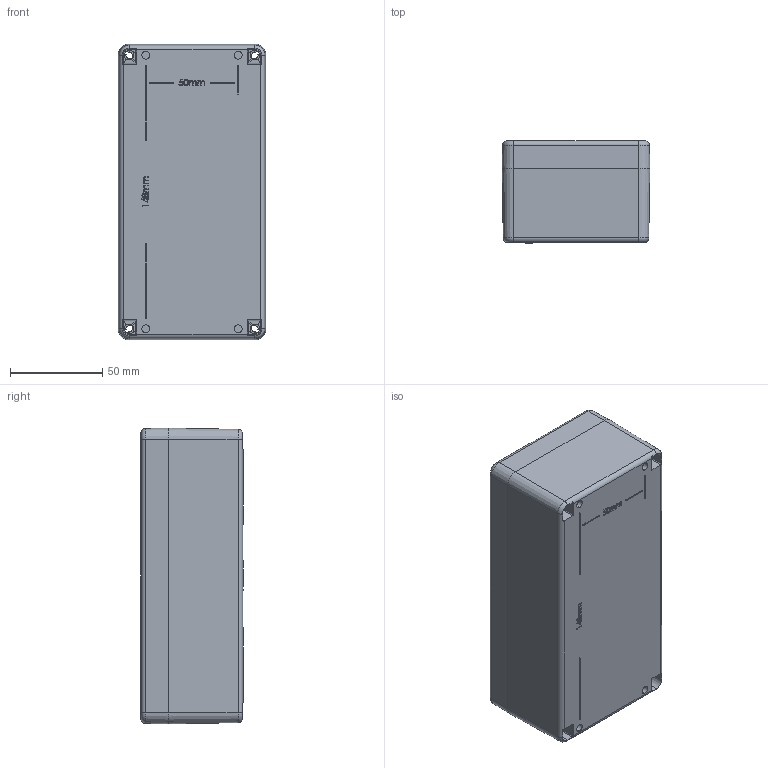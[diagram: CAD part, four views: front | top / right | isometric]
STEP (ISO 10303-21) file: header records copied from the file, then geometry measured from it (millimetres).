
FILE_DESCRIPTION (( 'STEP AP214' ), '1' );
FILE_NAME ('ZP 7 asm.STEP', '2014-10-27T11:33:31', ( '' ), ( '' ), 'SwSTEP 2.0', 'SolidWorks 2014', '' );
FILE_SCHEMA (( 'AUTOMOTIVE_DESIGN' ));
Length unit declared in the file: millimetre
Products named in the file (3): ZP 7 asm; ZP 7 Base; ZP 7 lid
Assembly tree (2 placements, depth 2):
  ZP 7 asm
    ZP 7 Base
    ZP 7 lid
Bounding box: 80 x 55.25 x 160 mm (x, y, z)
Volume: 143167.2 mm3; surface area: 117645.1 mm2
Topology: 2 solids, 2 shells, 797 faces, 2136 edges, 1378 vertices
Faces by surface type: plane 466, cone 176, cylinder 77, bspline 70, torus 8
Entity records: 28792 total; most frequent: CARTESIAN_POINT 8990, ORIENTED_EDGE 4232, DIRECTION 3876, EDGE_CURVE 2116, LINE 1412, VECTOR 1412, VERTEX_POINT 1378, AXIS2_PLACEMENT_3D 1232
